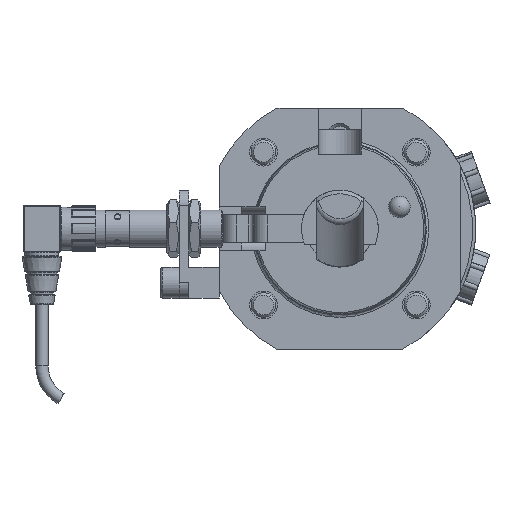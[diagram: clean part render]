
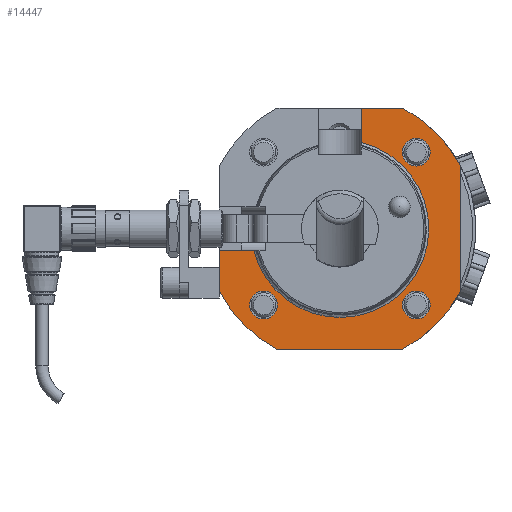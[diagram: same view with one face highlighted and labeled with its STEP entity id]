
A CAD part, left-side view. The second image highlights one B-rep face of the part: STEP entity #14447.
In plain terms, the highlighted planar face has unit normal (-1, 0, 0).
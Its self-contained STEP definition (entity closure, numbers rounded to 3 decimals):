
#859=LINE('',#21575,#1713);
#1345=LINE('',#26093,#2199);
#1346=LINE('',#26097,#2200);
#1347=LINE('',#26101,#2201);
#1348=LINE('',#26105,#2202);
#1349=LINE('',#26106,#2203);
#1713=VECTOR('',#17195,10.);
#2199=VECTOR('',#19615,10.);
#2200=VECTOR('',#19618,10.);
#2201=VECTOR('',#19621,10.);
#2202=VECTOR('',#19624,10.);
#2203=VECTOR('',#19625,10.);
#2545=FACE_BOUND('',#4009,.T.);
#2546=FACE_BOUND('',#4010,.T.);
#2547=FACE_BOUND('',#4011,.T.);
#3169=FACE_OUTER_BOUND('',#4008,.T.);
#4008=EDGE_LOOP('',(#11761,#11762,#11763,#11764,#11765,#11766,#11767,#11768,
#11769,#11770));
#4009=EDGE_LOOP('',(#11771));
#4010=EDGE_LOOP('',(#11772));
#4011=EDGE_LOOP('',(#11773));
#4891=CIRCLE('',#15848,28.785);
#4926=CIRCLE('',#15905,4.5);
#4927=CIRCLE('',#15907,4.5);
#4928=CIRCLE('',#15909,4.5);
#4956=CIRCLE('',#15956,44.);
#4957=CIRCLE('',#15957,44.);
#4958=CIRCLE('',#15958,44.);
#5450=VERTEX_POINT('',#21572);
#5451=VERTEX_POINT('',#21574);
#6178=VERTEX_POINT('',#25723);
#6181=VERTEX_POINT('',#25737);
#6221=VERTEX_POINT('',#25949);
#6222=VERTEX_POINT('',#25953);
#6223=VERTEX_POINT('',#25957);
#6267=VERTEX_POINT('',#26094);
#6268=VERTEX_POINT('',#26096);
#6269=VERTEX_POINT('',#26098);
#6270=VERTEX_POINT('',#26100);
#6271=VERTEX_POINT('',#26102);
#6272=VERTEX_POINT('',#26104);
#6971=EDGE_CURVE('',#5451,#5450,#859,.T.);
#8065=EDGE_CURVE('',#6181,#6178,#4891,.T.);
#8126=EDGE_CURVE('',#6221,#6221,#4926,.T.);
#8128=EDGE_CURVE('',#6222,#6222,#4927,.T.);
#8130=EDGE_CURVE('',#6223,#6223,#4928,.T.);
#8186=EDGE_CURVE('',#6181,#5451,#1345,.T.);
#8187=EDGE_CURVE('',#6267,#5450,#4956,.T.);
#8188=EDGE_CURVE('',#6267,#6268,#1346,.T.);
#8189=EDGE_CURVE('',#6269,#6268,#4957,.T.);
#8190=EDGE_CURVE('',#6269,#6270,#1347,.T.);
#8191=EDGE_CURVE('',#6271,#6270,#4958,.T.);
#8192=EDGE_CURVE('',#6271,#6272,#1348,.T.);
#8193=EDGE_CURVE('',#6272,#6178,#1349,.T.);
#11761=ORIENTED_EDGE('',*,*,#8065,.F.);
#11762=ORIENTED_EDGE('',*,*,#8186,.T.);
#11763=ORIENTED_EDGE('',*,*,#6971,.T.);
#11764=ORIENTED_EDGE('',*,*,#8187,.F.);
#11765=ORIENTED_EDGE('',*,*,#8188,.T.);
#11766=ORIENTED_EDGE('',*,*,#8189,.F.);
#11767=ORIENTED_EDGE('',*,*,#8190,.T.);
#11768=ORIENTED_EDGE('',*,*,#8191,.F.);
#11769=ORIENTED_EDGE('',*,*,#8192,.T.);
#11770=ORIENTED_EDGE('',*,*,#8193,.T.);
#11771=ORIENTED_EDGE('',*,*,#8126,.T.);
#11772=ORIENTED_EDGE('',*,*,#8128,.T.);
#11773=ORIENTED_EDGE('',*,*,#8130,.T.);
#13009=PLANE('',#15955);
#14447=ADVANCED_FACE('',(#3169,#2545,#2546,#2547),#13009,.T.);
#15848=AXIS2_PLACEMENT_3D('',#25748,#19357,#19358);
#15905=AXIS2_PLACEMENT_3D('',#25951,#19491,#19492);
#15907=AXIS2_PLACEMENT_3D('',#25955,#19496,#19497);
#15909=AXIS2_PLACEMENT_3D('',#25959,#19501,#19502);
#15955=AXIS2_PLACEMENT_3D('',#26092,#19613,#19614);
#15956=AXIS2_PLACEMENT_3D('',#26095,#19616,#19617);
#15957=AXIS2_PLACEMENT_3D('',#26099,#19619,#19620);
#15958=AXIS2_PLACEMENT_3D('',#26103,#19622,#19623);
#17195=DIRECTION('',(0.,0.,-1.));
#19357=DIRECTION('center_axis',(-1.,0.,0.));
#19358=DIRECTION('ref_axis',(0.,-0.707,-0.707));
#19491=DIRECTION('center_axis',(1.,0.,0.));
#19492=DIRECTION('ref_axis',(0.,0.,
1.));
#19496=DIRECTION('center_axis',(1.,0.,0.));
#19497=DIRECTION('ref_axis',(0.,1.,0.));
#19501=DIRECTION('center_axis',(1.,0.,0.));
#19502=DIRECTION('ref_axis',(0.,-1.,0.));
#19613=DIRECTION('center_axis',(-1.,0.,0.));
#19614=DIRECTION('ref_axis',(0.,0.,
1.));
#19615=DIRECTION('',(0.,1.,0.));
#19616=DIRECTION('center_axis',(1.,0.,0.));
#19617=DIRECTION('ref_axis',(0.,1.,0.));
#19618=DIRECTION('',(0.,-1.,0.));
#19619=DIRECTION('center_axis',(1.,0.,0.));
#19620=DIRECTION('ref_axis',(0.,1.,0.));
#19621=DIRECTION('',(0.,0.,1.));
#19622=DIRECTION('center_axis',(1.,0.,0.));
#19623=DIRECTION('ref_axis',(0.,1.,0.));
#19624=DIRECTION('',(0.,1.,0.));
#19625=DIRECTION('',(0.,0.,-1.));
#21572=CARTESIAN_POINT('',(-83.,39.,-20.372));
#21574=CARTESIAN_POINT('',(-83.,39.,-7.));
#21575=CARTESIAN_POINT('',(-83.,39.,-10.186));
#25723=CARTESIAN_POINT('',(-83.,-7.,27.921));
#25737=CARTESIAN_POINT('',(-83.,27.921,-7.));
#25748=CARTESIAN_POINT('Origin',(-83.,0.,0.));
#25949=CARTESIAN_POINT('',(-83.,-24.749,-29.249));
#25951=CARTESIAN_POINT('Origin',(-83.,-24.749,-24.749));
#25953=CARTESIAN_POINT('',(-83.,-29.249,24.749));
#25955=CARTESIAN_POINT('Origin',(-83.,-24.749,24.749));
#25957=CARTESIAN_POINT('',(-83.,29.249,-24.749));
#25959=CARTESIAN_POINT('Origin',(-83.,24.749,-24.749));
#26092=CARTESIAN_POINT('Origin',(-83.,35.993,0.));
#26093=CARTESIAN_POINT('',(-83.,37.496,-7.));
#26094=CARTESIAN_POINT('',(-83.,20.372,-39.));
#26095=CARTESIAN_POINT('Origin',(-83.,0.,0.));
#26096=CARTESIAN_POINT('',(-83.,-20.372,-39.));
#26097=CARTESIAN_POINT('',(-83.,7.81,-39.));
#26098=CARTESIAN_POINT('',(-83.,-39.,-20.372));
#26099=CARTESIAN_POINT('Origin',(-83.,0.,0.));
#26100=CARTESIAN_POINT('',(-83.,-39.,20.372));
#26101=CARTESIAN_POINT('',(-83.,-39.,10.186));
#26102=CARTESIAN_POINT('',(-83.,-20.372,39.));
#26103=CARTESIAN_POINT('Origin',(-83.,0.,0.));
#26104=CARTESIAN_POINT('',(-83.,-7.,39.));
#26105=CARTESIAN_POINT('',(-83.,28.182,39.));
#26106=CARTESIAN_POINT('',(-83.,-7.,19.5));
